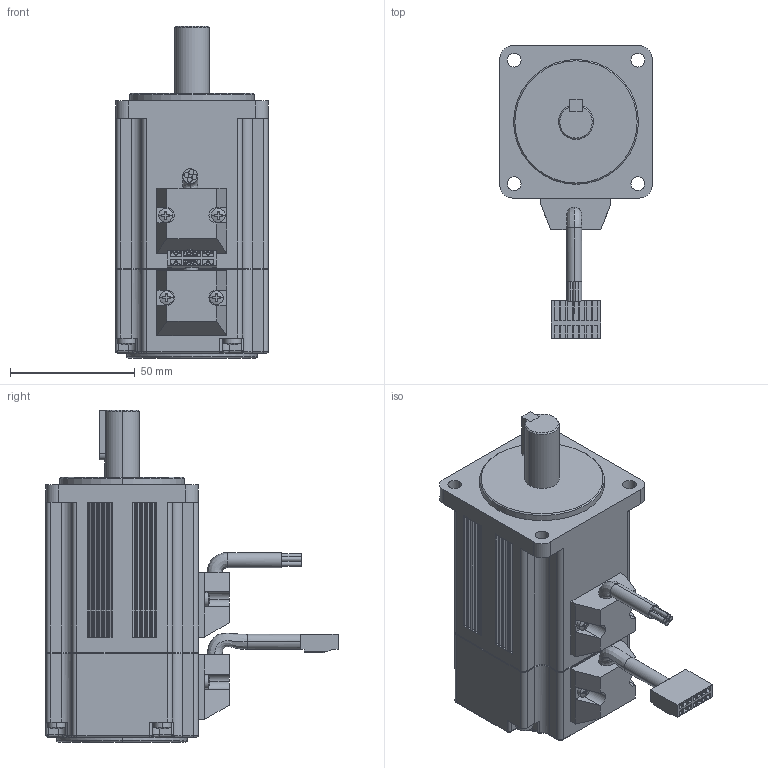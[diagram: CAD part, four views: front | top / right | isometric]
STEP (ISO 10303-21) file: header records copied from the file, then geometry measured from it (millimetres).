
FILE_DESCRIPTION (( 'STEP AP203' ), '1' );
FILE_NAME ('SE060AS-01.STEP', '2017-01-24T01:31:31', ( 'dell' ), ( 'Microsoft' ), 'SwSTEP 2.0', 'SolidWorks 2016', '' );
FILE_SCHEMA (( 'CONFIG_CONTROL_DESIGN' ));
Length unit declared in the file: millimetre
Products named in the file (9): 竘堤盄1; 竘堤盄2; cross recessed small pan head screws gb_GB_CROSS_SCREWS_TYPE3 M4X5-5-N; cross recessed small pan head screws gb_GB_CROSS_SCREWS_TYPE3 M3X5-5-N; 諉脣璃; SE060AS-01; SE060AS100儂旯; 綴裔; 揤盄輸
Assembly tree (15 placements, depth 2):
  SE060AS-01
    SE060AS100儂旯
    綴裔
    揤盄輸  x2
    竘堤盄1
    竘堤盄2
    cross recessed small pan head screws gb_GB_CROSS_SCREWS_TYPE3 M4X5-5-N  x4
    cross recessed small pan head screws gb_GB_CROSS_SCREWS_TYPE3 M3X5-5-N  x4
    諉脣璃
Bounding box: 61 x 117.03 x 133 mm (x, y, z)
Volume: 361663.7 mm3; surface area: 56924.1 mm2
Topology: 16 solids, 16 shells, 964 faces, 2427 edges, 1580 vertices
Faces by surface type: plane 575, cylinder 314, torus 30, bspline 24, sphere 16, cone 5
Entity records: 25448 total; most frequent: CARTESIAN_POINT 5108, DIRECTION 4059, ORIENTED_EDGE 3914, EDGE_CURVE 1957, AXIS2_PLACEMENT_3D 1379, LINE 1301, VECTOR 1301, VERTEX_POINT 1274
